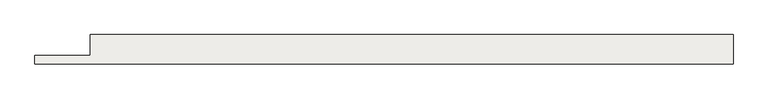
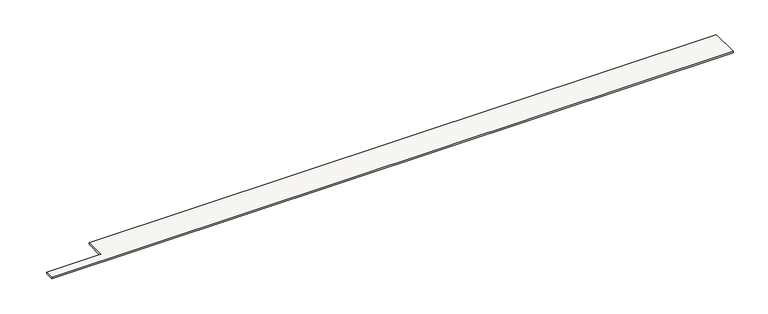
"""IFC4 building model written with IfcOpenShell, lengths in millimetres: slab geometry, Sol-02 - Tablette bois 2cm."""

from ifc_helpers import new_model, si_unit, origin, origin_with_axes, place, context, project, spatial, polyline, outline, extrude, source, transform, mapped, element, save


def slab_39f5bd3b(model_context):
    return source(origin(), model_context, "Body", "SweptSolid", [
        extrude(outline(polyline([(63688.9999483, 0.0), (55388.9999483, 0.0), (55388.9999483, 100.0), (56048.9999483, 100.0), (56048.9999483, 350.0), (63688.9999483, 350.0), (63688.9999483, 0.0)])), origin_with_axes(), (0.0, 0.0, 1.0), 20.0),
    ])


if __name__ == "__main__":
    model = new_model("IFC4")
    model_context = context("Model", 3, world=origin())
    ifc_project = project(units=[si_unit("LENGTHUNIT", "METRE", prefix="MILLI")], contexts=[model_context])
    site = spatial("IfcSite", under=ifc_project)
    building = spatial("IfcBuilding", under=site)
    placement = place(None, origin())
    slab_shape = slab_39f5bd3b(model_context)
    element("IfcSlab", 1, ObjectType="Sol-02 - Tablette bois 2cm", at=placement, inside=building, context=model_context, shape_type="MappedRepresentation", body=[
        mapped(slab_shape, transform((0.0, 0.0, 0.0), x_axis=(1.0, 0.0, 0.0), y_axis=(0.0, 1.0, 0.0), z_axis=(0.0, 0.0, 1.0))),
    ])
    save(model, "model.ifc")
